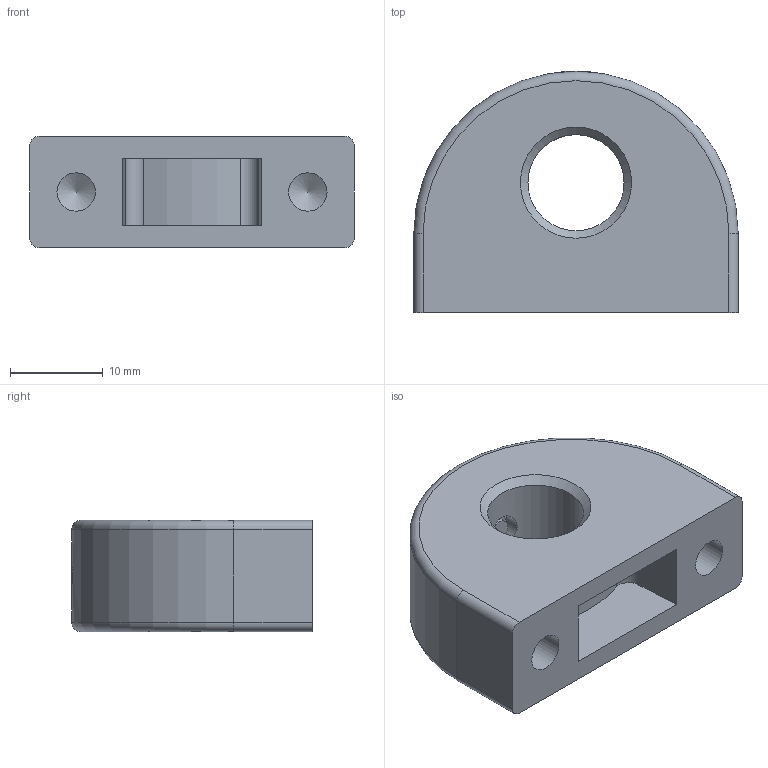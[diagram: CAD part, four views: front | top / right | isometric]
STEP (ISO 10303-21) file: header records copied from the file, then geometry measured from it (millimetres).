
FILE_DESCRIPTION( ( 'STEP AP203' ), '1' );
FILE_NAME( 'C:/Temp/Ganter_Step_05_03_2020/data/3_1/gn412_1/Mounting block GN 412.1-35-M12x1,5-2.stp', '2020-03-12T08:30:55', ( 'License CC BY-ND 4.0' ), ( 'CADENAS' ), ' ', 'PARTsolutions', ' ' );
FILE_SCHEMA( ( 'CONFIG_CONTROL_DESIGN' ) );
Length unit declared in the file: millimetre
Products named in the file (1): _Mounting block GN 412.1-35-M12x1,5-2
Bounding box: 35 x 26 x 12 mm (x, y, z)
Volume: 7039.3 mm3; surface area: 3713.9 mm2
Topology: 1 solids, 1 shells, 43 faces, 96 edges, 60 vertices
Faces by surface type: plane 19, cylinder 15, cone 7, torus 2
Full cylindrical faces by diameter (mm): 2.5 x1, 4 x2, 4.134 x2, 10.376 x1, 12.2 x1
Entity records: 1262 total; most frequent: CARTESIAN_POINT 294, DIRECTION 200, ORIENTED_EDGE 160, EDGE_CURVE 80, AXIS2_PLACEMENT_3D 78, EDGE_LOOP 64, VERTEX_POINT 60, FACE_OUTER_BOUND 50
